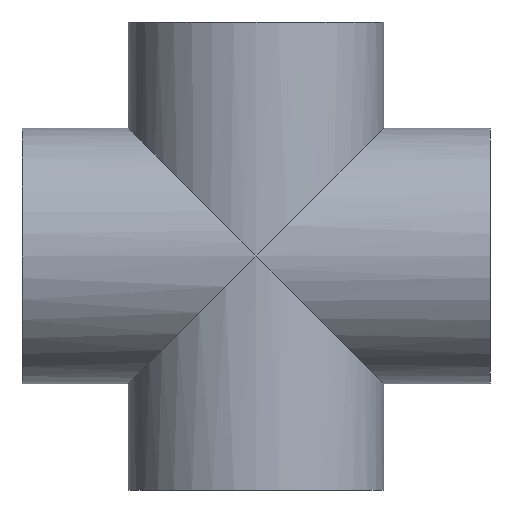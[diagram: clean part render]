
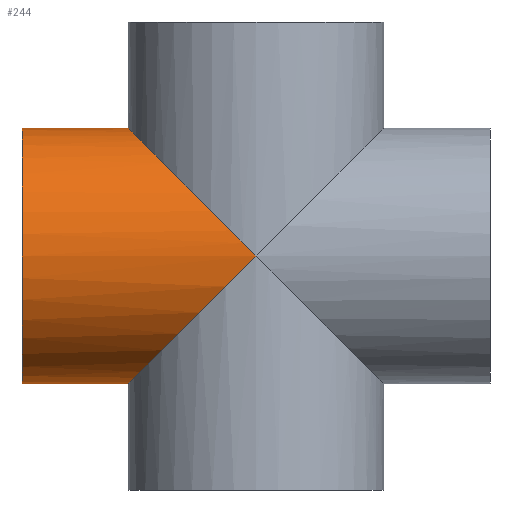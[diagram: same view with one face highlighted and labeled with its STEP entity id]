
A CAD part, left-side view. The second image highlights one B-rep face of the part: STEP entity #244.
In plain terms, the highlighted cylindrical face has radius 53 mm (diameter 106 mm), a full revolution.
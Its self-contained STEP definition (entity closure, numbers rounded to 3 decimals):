
#21=ELLIPSE('',#287,74.953,53.);
#22=ELLIPSE('',#288,74.953,53.);
#44=FACE_BOUND('',#98,.T.);
#64=FACE_OUTER_BOUND('',#97,.T.);
#97=EDGE_LOOP('',(#202));
#98=EDGE_LOOP('',(#203,#204));
#124=CIRCLE('',#286,53.);
#141=VERTEX_POINT('',#431);
#142=VERTEX_POINT('',#432);
#144=VERTEX_POINT('',#438);
#166=EDGE_CURVE('',#144,#144,#124,.T.);
#167=EDGE_CURVE('',#141,#142,#21,.T.);
#168=EDGE_CURVE('',#142,#141,#22,.T.);
#202=ORIENTED_EDGE('',*,*,#166,.F.);
#203=ORIENTED_EDGE('',*,*,#167,.F.);
#204=ORIENTED_EDGE('',*,*,#168,.F.);
#228=CYLINDRICAL_SURFACE('',#285,53.);
#244=ADVANCED_FACE('',(#64,#44),#228,.T.);
#285=AXIS2_PLACEMENT_3D('',#437,#363,#364);
#286=AXIS2_PLACEMENT_3D('',#439,#365,#366);
#287=AXIS2_PLACEMENT_3D('',#440,#367,#368);
#288=AXIS2_PLACEMENT_3D('',#441,#369,#370);
#363=DIRECTION('center_axis',(0.,1.,0.));
#364=DIRECTION('ref_axis',(1.,0.,0.));
#365=DIRECTION('center_axis',(0.,1.,0.));
#366=DIRECTION('ref_axis',(1.,0.,0.));
#367=DIRECTION('center_axis',(0.,-0.707,0.707));
#368=DIRECTION('ref_axis',(0.,-0.707,-0.707));
#369=DIRECTION('center_axis',(0.,-0.707,-0.707));
#370=DIRECTION('ref_axis',(0.,0.707,-0.707));
#431=CARTESIAN_POINT('',(53.,0.,0.));
#432=CARTESIAN_POINT('',(-53.,0.,0.));
#437=CARTESIAN_POINT('Origin',(0.,0.,0.));
#438=CARTESIAN_POINT('',(-53.,97.,0.));
#439=CARTESIAN_POINT('Origin',(0.,97.,0.));
#440=CARTESIAN_POINT('Origin',(0.,0.,0.));
#441=CARTESIAN_POINT('Origin',(0.,0.,0.));
